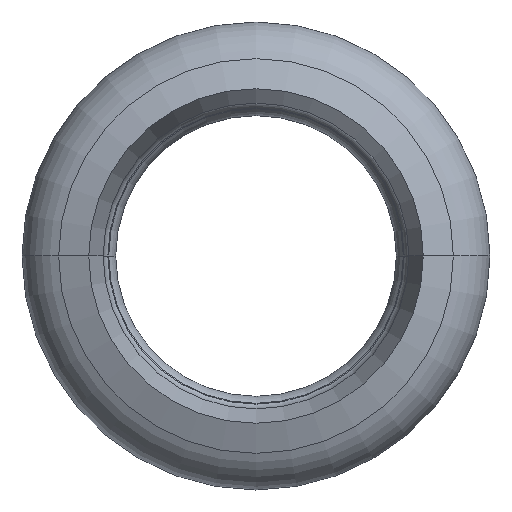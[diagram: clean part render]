
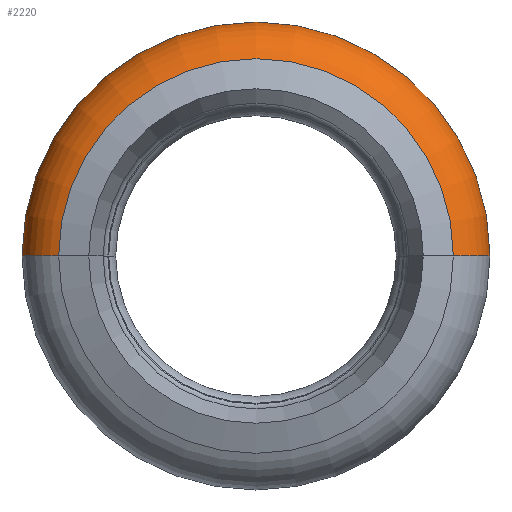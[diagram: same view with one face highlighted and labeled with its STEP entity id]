
A CAD part, front view. The second image highlights one B-rep face of the part: STEP entity #2220.
In plain terms, the highlighted toroidal (fillet/blend) face has major radius 8.896 mm and minor radius 2.779 mm.
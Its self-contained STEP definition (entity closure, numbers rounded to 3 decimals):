
#1100=CARTESIAN_POINT('',(31.144,44.869,
0.));
#1110=VERTEX_POINT('644870-1530253459-180373220723-0 692541',#1100);
#1200=CARTESIAN_POINT('',(53.193,44.869,
0.));
#1210=VERTEX_POINT('',#1200);
#1240=CARTESIAN_POINT('',(42.168,44.869,0.));
#1250=DIRECTION('',(0.,1.,0.));
#1260=DIRECTION('',(-1.,0.,0.));
#1270=AXIS2_PLACEMENT_3D('',#1240,#1250,#1260);
#1280=CIRCLE('',#1270,11.025);
#1290=EDGE_CURVE('644870-1530253459-180373220723-0 692537',#1210,#1110,
#1280,.T.);
#1750=CARTESIAN_POINT('',(52.015,49.267,
0.));
#1760=VERTEX_POINT('',#1750);
#1790=CARTESIAN_POINT('',(42.168,49.267,0.));
#1800=DIRECTION('',(0.,1.,0.));
#1810=DIRECTION('',(-1.,0.,0.));
#1820=AXIS2_PLACEMENT_3D('',#1790,#1800,#1810);
#1830=CIRCLE('',#1820,9.846);
#1840=CARTESIAN_POINT('',(32.322,49.267,
0.));
#1850=VERTEX_POINT('644870-1530253459-180373220723-0 692393',#1840);
#1980=CARTESIAN_POINT('',(42.168,46.655,0.));
#1990=DIRECTION('',(0.,1.,0.));
#2000=DIRECTION('',(-1.,0.,0.));
#2010=AXIS2_PLACEMENT_3D('',#1980,#1990,#2000);
#2020=TOROIDAL_SURFACE('',#2010,8.896,2.779);
#2030=CARTESIAN_POINT('',(33.273,46.655,
0.));
#2040=DIRECTION('',(0.,0.,1.));
#2050=DIRECTION('',(0.,1.,0.));
#2060=AXIS2_PLACEMENT_3D('',#2030,#2040,#2050);
#2070=CIRCLE('',#2060,2.779);
#2080=EDGE_CURVE('',#1850,#1110,#2070,.T.);
#2090=ORIENTED_EDGE('',*,*,#2080,.F.);
#2100=ORIENTED_EDGE('',*,*,#1290,.T.);
#2110=CARTESIAN_POINT('',(51.064,46.655,
0.));
#2120=DIRECTION('',(0.,0.,-1.));
#2130=DIRECTION('',(0.,1.,0.));
#2140=AXIS2_PLACEMENT_3D('',#2110,#2120,#2130);
#2150=CIRCLE('',#2140,2.779);
#2160=EDGE_CURVE('',#1760,#1210,#2150,.T.);
#2170=ORIENTED_EDGE('',*,*,#2160,.T.);
#2180=EDGE_CURVE('644870-1530253459-180373220723-0 692389',#1760,#1850,
#1830,.T.);
#2190=ORIENTED_EDGE('',*,*,#2180,.F.);
#2200=EDGE_LOOP('',(#2190,#2170,#2100,#2090));
#2210=FACE_OUTER_BOUND('',#2200,.T.);
#2220=ADVANCED_FACE('644870-1530253459-180373220723-0 692380',(#2210),
#2020,.T.);
